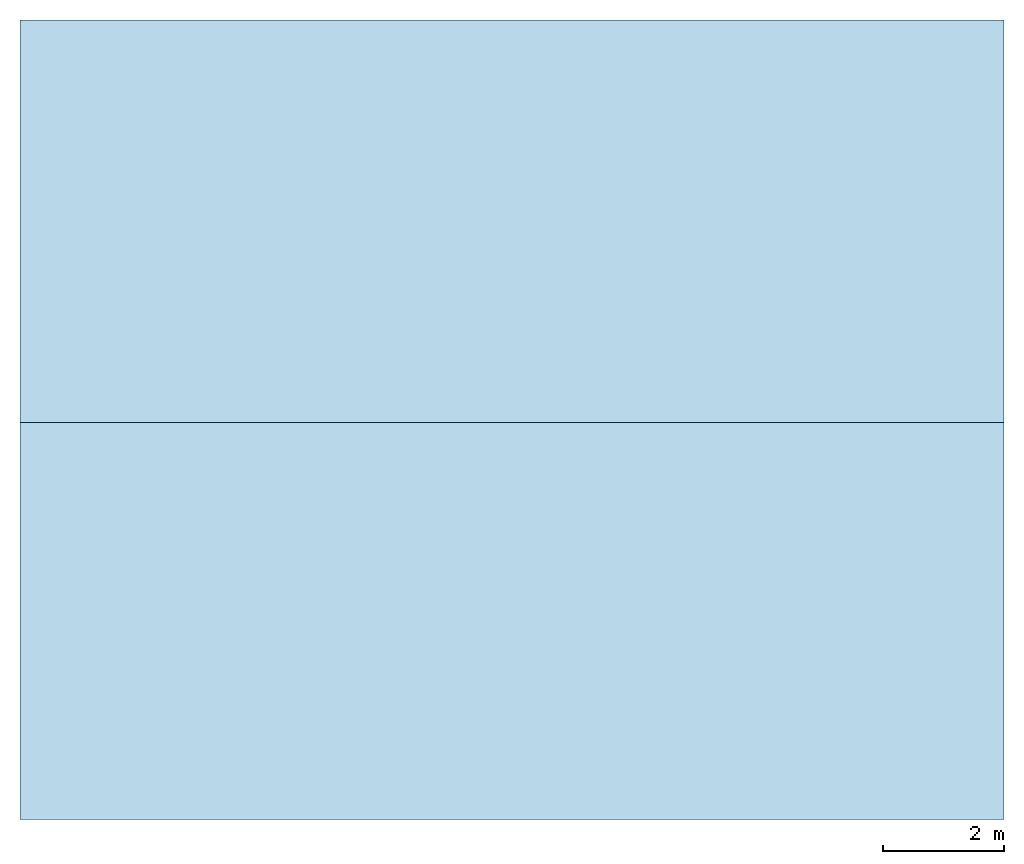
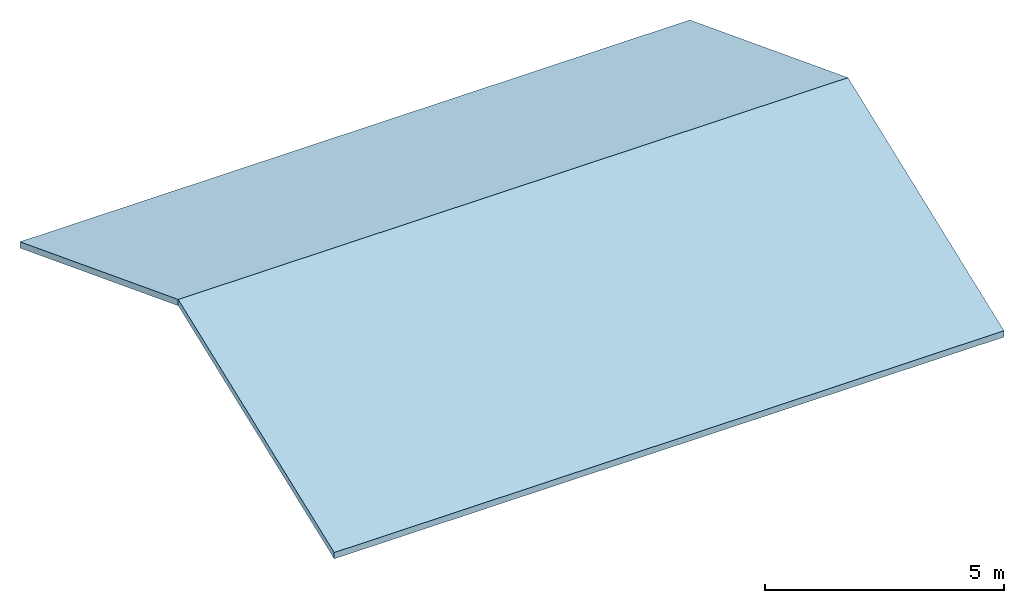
# One storey: 2 slabs, 1 element without a shape of its own.
"""IFC2X3 building model written with IfcOpenShell, lengths in millimetres."""

from ifc_helpers import new_model, entity, si_unit, converted_unit, derived_unit, direction, frame, frame_2d, origin, place, context, subcontext, project, spatial, rectangle, extrude, material, layer, layer_set, type_object, element, aggregate, save


model = new_model("IFC2X3")

# Units and contexts
model_context = context("Model", 3, precision=0.01, world=origin(), true_north=direction((6.123031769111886e-17, 1.0)))
body_context = subcontext(model_context, "Body", "Model", "MODEL_VIEW")
ifc_project = project(units=[si_unit("LENGTHUNIT", "METRE", prefix="MILLI"), si_unit("AREAUNIT", "SQUARE_METRE"), si_unit("VOLUMEUNIT", "CUBIC_METRE"), converted_unit("PLANEANGLEUNIT", "DEGREE", entity("IfcRatioMeasure", 0.017453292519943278), si_unit("PLANEANGLEUNIT", "RADIAN"), dimensions=[0, 0, 0, 0, 0, 0, 0]), si_unit("MASSUNIT", "GRAM", prefix="KILO"), derived_unit("MASSDENSITYUNIT", [(si_unit("MASSUNIT", "GRAM", prefix="KILO"), 1), (si_unit("LENGTHUNIT", "METRE"), -3)]), derived_unit("MOMENTOFINERTIAUNIT", [(si_unit("LENGTHUNIT", "METRE"), 4)]), si_unit("TIMEUNIT", "SECOND"), si_unit("FREQUENCYUNIT", "HERTZ"), si_unit("THERMODYNAMICTEMPERATUREUNIT", "DEGREE_CELSIUS"), derived_unit("THERMALTRANSMITTANCEUNIT", [(si_unit("MASSUNIT", "GRAM", prefix="KILO"), 1), (si_unit("THERMODYNAMICTEMPERATUREUNIT", "KELVIN"), -1), (si_unit("TIMEUNIT", "SECOND"), -3)]), derived_unit("VOLUMETRICFLOWRATEUNIT", [(si_unit("LENGTHUNIT", "METRE"), 3), (si_unit("TIMEUNIT", "SECOND"), -1)]), derived_unit("MASSFLOWRATEUNIT", [(si_unit("MASSUNIT", "GRAM", prefix="KILO"), 1), (si_unit("TIMEUNIT", "SECOND"), -1)]), derived_unit("ROTATIONALFREQUENCYUNIT", [(si_unit("TIMEUNIT", "SECOND"), -1)]), si_unit("ELECTRICCURRENTUNIT", "AMPERE"), si_unit("ELECTRICVOLTAGEUNIT", "VOLT"), si_unit("POWERUNIT", "WATT"), si_unit("FORCEUNIT", "NEWTON", prefix="KILO"), si_unit("ILLUMINANCEUNIT", "LUX"), si_unit("LUMINOUSFLUXUNIT", "LUMEN"), si_unit("LUMINOUSINTENSITYUNIT", "CANDELA"), derived_unit("USERDEFINED", [(si_unit("MASSUNIT", "GRAM", prefix="KILO"), -1), (si_unit("LENGTHUNIT", "METRE"), -2), (si_unit("TIMEUNIT", "SECOND"), 3), (si_unit("LUMINOUSFLUXUNIT", "LUMEN"), 1)]), derived_unit("SOUNDPOWERUNIT", [(si_unit("MASSUNIT", "GRAM", prefix="KILO"), 1), (si_unit("LENGTHUNIT", "METRE"), 2), (si_unit("TIMEUNIT", "SECOND"), -3)]), derived_unit("SOUNDPRESSUREUNIT", [(si_unit("MASSUNIT", "GRAM", prefix="KILO"), 1), (si_unit("LENGTHUNIT", "METRE"), -1), (si_unit("TIMEUNIT", "SECOND"), -2)]), derived_unit("LINEARVELOCITYUNIT", [(si_unit("LENGTHUNIT", "METRE"), 1), (si_unit("TIMEUNIT", "SECOND"), -1)]), si_unit("PRESSUREUNIT", "PASCAL"), derived_unit("USERDEFINED", [(si_unit("LENGTHUNIT", "METRE"), -2), (si_unit("MASSUNIT", "GRAM", prefix="KILO"), 1), (si_unit("TIMEUNIT", "SECOND"), -2)]), derived_unit("LINEARFORCEUNIT", [(si_unit("MASSUNIT", "GRAM", prefix="KILO"), 1), (si_unit("LENGTHUNIT", "METRE"), 1), (si_unit("TIMEUNIT", "SECOND"), -2), (si_unit("LENGTHUNIT", "METRE"), -1)]), derived_unit("PLANARFORCEUNIT", [(si_unit("MASSUNIT", "GRAM", prefix="KILO"), 1), (si_unit("LENGTHUNIT", "METRE"), 1), (si_unit("TIMEUNIT", "SECOND"), -2), (si_unit("LENGTHUNIT", "METRE"), -2)])], contexts=[model_context])

# Site, building, storey
site_placement = place(None, origin())
site = spatial("IfcSite", under=ifc_project, at=site_placement, Name="Default", CompositionType="ELEMENT")
building_placement = place(site_placement, origin())
building = spatial("IfcBuilding", under=site, at=building_placement, CompositionType="ELEMENT")
storey_placement = place(building_placement, frame((0.0, 0.0, 7000.0)))
storey = spatial("IfcBuildingStorey", under=building, at=storey_placement, Name="外部最高高さ", CompositionType="ELEMENT", Elevation=7000.000000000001)

# Roof, slabs
ifc_material_1 = material(Name="屋根、スレート")
ifc_layer_1 = layer(ifc_material_1, 30.0)
ifc_material_2 = material(Name="既定の屋根")
ifc_layer_2 = layer(ifc_material_2, 120.0)
ifc_layer_set = layer_set([ifc_layer_1, ifc_layer_2], Name="標準屋根:スレート-150mm")
roof_placement = place(storey_placement, frame((130268.94148797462, 964.9370145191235, -1705.084190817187)))
roof = element("IfcRoof", 1, at=roof_placement, inside=storey, material=ifc_layer_set, Name="標準屋根:スレート-150mm", ObjectType="標準屋根:スレート-150mm", ShapeType="NOTDEFINED")
slab_type_1 = type_object("IfcSlabType", Name="標準屋根:スレート-150mm", PredefinedType="ROOF")
slab_1_placement = place(roof_placement, origin())
slab_1 = element("IfcSlab", 2, at=slab_1_placement, type_object=slab_type_1, material=ifc_layer_set, Name="標準屋根:スレート-150mm", ObjectType="標準屋根:スレート-150mm", PredefinedType="ROOF", context=body_context, shape_type="SweptSolid", body=[
    extrude(rectangle(XDim=16200.000000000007, YDim=7000.0, at=frame_2d((-8.640199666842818e-12, -6.821210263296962e-13), x_axis=(1.0, 0.0))), frame((8100.0, 3267.531492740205, 1290.1246183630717), z_axis=(0.0, -0.35836794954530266, 0.9335804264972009), x_axis=(1.0, 0.0, 0.0)), (0.0, 0.35836794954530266, 0.9335804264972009), 160.67174904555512),
])
slab_type_2 = type_object("IfcSlabType", Name="標準屋根:スレート-150mm", PredefinedType="ROOF")
slab_2_placement = place(roof_placement, origin())
slab_2 = element("IfcSlab", 3, at=slab_2_placement, type_object=slab_type_2, material=ifc_layer_set, Name="標準屋根:スレート-150mm", ObjectType="標準屋根:スレート-150mm", PredefinedType="ROOF", context=body_context, shape_type="SweptSolid", body=[
    extrude(rectangle(XDim=16200.000000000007, YDim=7100.000000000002, at=frame_2d((-8.640199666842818e-12, 1.1368683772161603e-12), x_axis=(1.0, 0.0))), frame((8100.0, 9849.273499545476, 1272.206220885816), z_axis=(0.0, 0.3583679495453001, 0.9335804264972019), x_axis=(1.0, 0.0, 0.0)), (0.0, -0.3583679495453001, 0.9335804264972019), 160.67174904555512),
])
aggregate(roof, [slab_1, slab_2])

save(model, "model.ifc")
